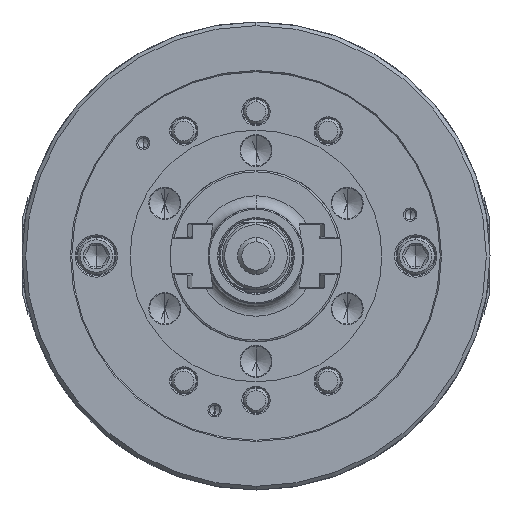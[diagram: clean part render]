
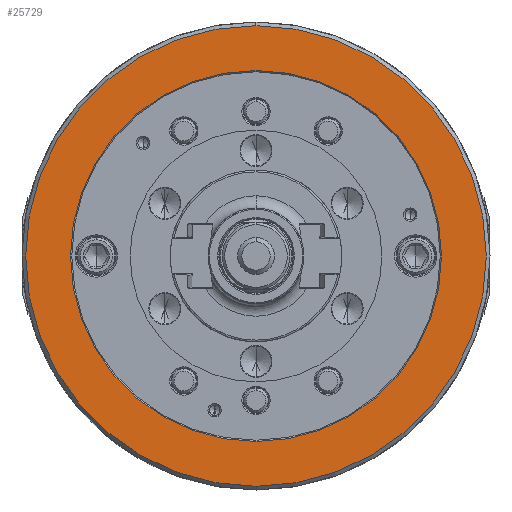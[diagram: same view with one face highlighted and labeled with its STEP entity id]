
A CAD part, left-side view. The second image highlights one B-rep face of the part: STEP entity #25729.
In plain terms, the highlighted planar face has unit normal (-1, 0, 0).
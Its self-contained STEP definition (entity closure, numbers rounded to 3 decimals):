
#14 = ORIENTED_EDGE ( 'NONE', *, *, #16496, .T. ) ;
#648 = CARTESIAN_POINT ( 'NONE',  ( -114., 0., 0. ) ) ;
#1263 = DIRECTION ( 'NONE',  ( 0., 0., -1. ) ) ;
#7313 = PLANE ( 'NONE',  #99952 ) ;
#7419 = CARTESIAN_POINT ( 'NONE',  ( -114., 0., 0. ) ) ;
#12883 = EDGE_CURVE ( 'NONE', #17534, #60874, #39668, .T. ) ;
#16496 = EDGE_CURVE ( 'NONE', #100989, #52660, #77519, .T. ) ;
#17534 = VERTEX_POINT ( 'NONE', #104648 ) ;
#18091 = AXIS2_PLACEMENT_3D ( 'NONE', #53796, #76690, #104036 ) ;
#25729 = ADVANCED_FACE ( 'NONE', ( #33969, #110872 ), #7313, .F. ) ;
#25871 = DIRECTION ( 'NONE',  ( 1., 0., 0. ) ) ;
#26497 = DIRECTION ( 'NONE',  ( 0., 0., -1. ) ) ;
#27168 = EDGE_LOOP ( 'NONE', ( #90116, #42507 ) ) ;
#27214 = DIRECTION ( 'NONE',  ( 0., 0., -1. ) ) ;
#33969 = FACE_OUTER_BOUND ( 'NONE', #27168, .T. ) ;
#39668 = CIRCLE ( 'NONE', #120918, 187.5 ) ;
#42507 = ORIENTED_EDGE ( 'NONE', *, *, #106667, .F. ) ;
#43275 = CARTESIAN_POINT ( 'NONE',  ( -114., -187.5, 0. ) ) ;
#45214 = DIRECTION ( 'NONE',  ( 1., 0., 0. ) ) ;
#52660 = VERTEX_POINT ( 'NONE', #67605 ) ;
#53796 = CARTESIAN_POINT ( 'NONE',  ( -114., 0., 0. ) ) ;
#59827 = ORIENTED_EDGE ( 'NONE', *, *, #63476, .T. ) ;
#60874 = VERTEX_POINT ( 'NONE', #99511 ) ;
#63476 = EDGE_CURVE ( 'NONE', #52660, #100989, #74068, .T. ) ;
#66947 = CARTESIAN_POINT ( 'NONE',  ( -114., 0., -151. ) ) ;
#67413 = DIRECTION ( 'NONE',  ( 0., 0., -1. ) ) ;
#67605 = CARTESIAN_POINT ( 'NONE',  ( -114., 0., 151. ) ) ;
#69249 = DIRECTION ( 'NONE',  ( 1., 0., 0. ) ) ;
#74068 = CIRCLE ( 'NONE', #91976, 151. ) ;
#76690 = DIRECTION ( 'NONE',  ( 1., 0., 0. ) ) ;
#77338 = CARTESIAN_POINT ( 'NONE',  ( -114., 0., 0. ) ) ;
#77519 = CIRCLE ( 'NONE', #18091, 151. ) ;
#88818 = AXIS2_PLACEMENT_3D ( 'NONE', #77338, #69249, #67413 ) ;
#90116 = ORIENTED_EDGE ( 'NONE', *, *, #12883, .F. ) ;
#91976 = AXIS2_PLACEMENT_3D ( 'NONE', #7419, #45214, #27214 ) ;
#94296 = DIRECTION ( 'NONE',  ( 1., 0., 0. ) ) ;
#99511 = CARTESIAN_POINT ( 'NONE',  ( -114., 0., 187.5 ) ) ;
#99952 = AXIS2_PLACEMENT_3D ( 'NONE', #43275, #25871, #26497 ) ;
#100677 = CIRCLE ( 'NONE', #88818, 187.5 ) ;
#100989 = VERTEX_POINT ( 'NONE', #66947 ) ;
#104036 = DIRECTION ( 'NONE',  ( 0., 0., -1. ) ) ;
#104648 = CARTESIAN_POINT ( 'NONE',  ( -114., 0., -187.5 ) ) ;
#106667 = EDGE_CURVE ( 'NONE', #60874, #17534, #100677, .T. ) ;
#110872 = FACE_BOUND ( 'NONE', #113222, .T. ) ;
#113222 = EDGE_LOOP ( 'NONE', ( #59827, #14 ) ) ;
#120918 = AXIS2_PLACEMENT_3D ( 'NONE', #648, #94296, #1263 ) ;
